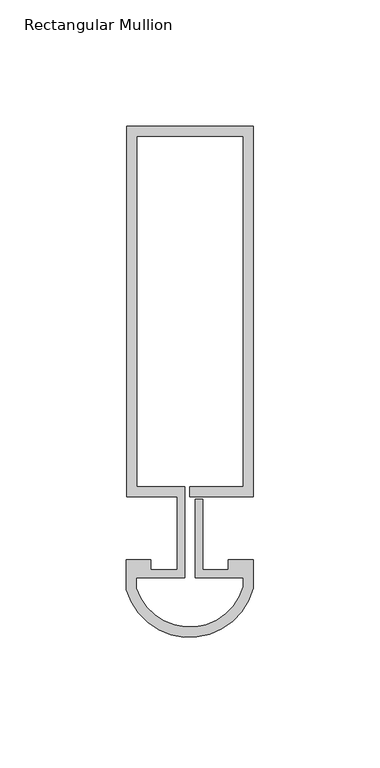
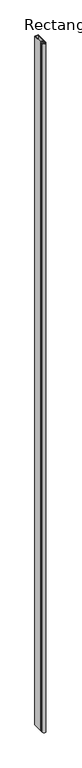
"""IFC4 building model written with IfcOpenShell, lengths in millimetres: member geometry, Rectangular Mullion : Reynaers_CW-50_Mullion-Transom_Vertical_146.5mm_Facecap-07."""

import ifcopenshell
import ifcopenshell.guid

model = None  # the IFC model being written
_history = None  # IfcOwnerHistory: only IFC2X3 demands one
_inside = {}  # id of a spatial element -> (the spatial element, [elements in it])
_under = {}  # id of a project, library or spatial element -> (it, [spatial elements below it])
_declared = {}  # id of a project -> (the project, [libraries it declares])
_typed = {}  # id of a type object -> (the type object, [elements of that type])
_made_of = {}  # id of a material, layer set ... -> (it, [elements and type objects made of it])


def new_model(schema):
    """Start an empty IFC model of exactly this schema.

    Asked for "IFC4X3", IfcOpenShell would pick the latest addendum, in which some entities
    have other attributes; the version numbers below select the first issue.
    IFC2X3 requires an IfcOwnerHistory on every rooted entity: one is made here for all.
    """
    global model, _history
    if schema == "IFC4X3":
        model = ifcopenshell.file(schema_version=(4, 3, 0, 0))
    else:
        model = ifcopenshell.file(schema=schema)
    _inside.clear()
    _under.clear()
    _declared.clear()
    _typed.clear()
    _made_of.clear()
    _history = None
    if model.schema == "IFC2X3":
        org = make("IfcOrganization", Name="unknown")
        user = make(
            "IfcPersonAndOrganization",
            ThePerson=make("IfcPerson", FamilyName="unknown"),
            TheOrganization=org,
        )
        app = make(
            "IfcApplication",
            ApplicationDeveloper=org,
            Version="unknown",
            ApplicationFullName="unknown",
            ApplicationIdentifier="unknown",
        )
        _history = make(
            "IfcOwnerHistory",
            OwningUser=user,
            OwningApplication=app,
            ChangeAction="ADDED",
            CreationDate=0,
        )
    return model


def make(cls, **values):
    """One entity of the class cls with the attributes given. An attribute that is None is left unset."""
    return model.create_entity(
        cls, **{name: value for name, value in values.items() if value is not None}
    )


def rooted(cls, **values):
    """An entity with a GlobalId (a new one), such as an element, a storey or a relation."""
    return make(cls, GlobalId=ifcopenshell.guid.new(), OwnerHistory=_history, **values)


def si_unit(unit_type, name, prefix=None):
    """IfcSIUnit, for example si_unit("LENGTHUNIT", "METRE", prefix="MILLI")."""
    return make("IfcSIUnit", UnitType=unit_type, Prefix=prefix, Name=name)


def assignment(units):
    """IfcUnitAssignment: the units of a project."""
    return None if units is None else make("IfcUnitAssignment", Units=units)


def point(xyz):
    """IfcCartesianPoint."""
    return None if xyz is None else make("IfcCartesianPoint", Coordinates=xyz)


def direction(xyz):
    """IfcDirection."""
    return None if xyz is None else make("IfcDirection", DirectionRatios=xyz)


def frame(location, z_axis=None, x_axis=None):
    """IfcAxis2Placement3D, a coordinate frame: its origin and axes. An axis left out is left unset."""
    return make(
        "IfcAxis2Placement3D",
        Location=point(location),
        Axis=direction(z_axis),
        RefDirection=direction(x_axis),
    )


def frame_2d(location, x_axis=None):
    """IfcAxis2Placement2D, a coordinate frame in the plane: its origin and x axis."""
    return make(
        "IfcAxis2Placement2D", Location=point(location), RefDirection=direction(x_axis)
    )


def origin():
    """The frame at (0, 0, 0) with its axes left unset."""
    return frame((0.0, 0.0, 0.0))


def place(relative_to, where):
    """IfcLocalPlacement: puts the frame where relative to a parent placement (None: the world)."""
    return make(
        "IfcLocalPlacement", PlacementRelTo=relative_to, RelativePlacement=where
    )


def context(
    kind, dimensions, precision=None, world=None, true_north=None, identifier=None
):
    """IfcGeometricRepresentationContext, for example the 3D "Model" context."""
    return make(
        "IfcGeometricRepresentationContext",
        ContextIdentifier=identifier,
        ContextType=kind,
        CoordinateSpaceDimension=dimensions,
        Precision=precision,
        WorldCoordinateSystem=world,
        TrueNorth=true_north,
    )


def project(units=None, contexts=None):
    """IfcProject with its units and contexts."""
    return rooted(
        "IfcProject",
        Name="project",
        RepresentationContexts=contexts,
        UnitsInContext=assignment(units),
    )


def spatial(cls, under=None, at=None, **own):
    """A site, building, storey or space (cls), placed at a placement, below another one or the project."""
    s = rooted(cls, ObjectPlacement=at, **own)
    if under is not None:
        _under.setdefault(under.id(), (under, []))[1].append(s)
    return s


def polyline(points):
    """IfcPolyline through the points."""
    return make("IfcPolyline", Points=[point(p) for p in points])


def circle_curve(where, radius):
    """IfcCircle in the frame where."""
    return make("IfcCircle", Position=where, Radius=radius)


def trimmed(basis, trim1, trim2, sense, master):
    """IfcTrimmedCurve: the piece of a basis curve between two trims."""
    return make(
        "IfcTrimmedCurve",
        BasisCurve=basis,
        Trim1=trim1,
        Trim2=trim2,
        SenseAgreement=sense,
        MasterRepresentation=master,
    )


def segment(curve, same_sense, transition):
    """IfcCompositeCurveSegment."""
    return make(
        "IfcCompositeCurveSegment",
        Transition=transition,
        SameSense=same_sense,
        ParentCurve=curve,
    )


def composite_curve(segments, self_intersect=None):
    """IfcCompositeCurve: segments joined end to end."""
    return make("IfcCompositeCurve", Segments=segments, SelfIntersect=self_intersect)


def outline(outer, holes=None, kind="AREA"):
    """IfcArbitraryClosedProfileDef: a profile drawn as a closed curve; with holes, ...WithVoids."""
    if holes is None:
        return make("IfcArbitraryClosedProfileDef", ProfileType=kind, OuterCurve=outer)
    return make(
        "IfcArbitraryProfileDefWithVoids",
        ProfileType=kind,
        OuterCurve=outer,
        InnerCurves=holes,
    )


def extrude(swept, where, along, depth):
    """IfcExtrudedAreaSolid: the profile swept, set in the frame where, extruded along a direction by depth."""
    return make(
        "IfcExtrudedAreaSolid",
        SweptArea=swept,
        Position=where,
        ExtrudedDirection=direction(along),
        Depth=depth,
    )


def shape(context_of_items, identifier, shape_type, items):
    """IfcShapeRepresentation: the items that make up one representation, for example the "Body"."""
    return make(
        "IfcShapeRepresentation",
        ContextOfItems=context_of_items,
        RepresentationIdentifier=identifier,
        RepresentationType=shape_type,
        Items=items,
    )


def source(mapping_origin, context_of_items, identifier, shape_type, items):
    """IfcRepresentationMap: a shape defined once, which mapped items show again and again."""
    return make(
        "IfcRepresentationMap",
        MappingOrigin=mapping_origin,
        MappedRepresentation=shape(context_of_items, identifier, shape_type, items),
    )


def transform(
    local_origin,
    x_axis=None,
    y_axis=None,
    z_axis=None,
    scale=None,
    scale2=None,
    scale3=None,
    uniform=True,
):
    """IfcCartesianTransformationOperator3D, or its non-uniform kind. x_axis, y_axis, z_axis: its Axis1, 2, 3."""
    if uniform:
        return make(
            "IfcCartesianTransformationOperator3D",
            Axis1=direction(x_axis),
            Axis2=direction(y_axis),
            LocalOrigin=point(local_origin),
            Scale=scale,
            Axis3=direction(z_axis),
        )
    return make(
        "IfcCartesianTransformationOperator3DnonUniform",
        Axis1=direction(x_axis),
        Axis2=direction(y_axis),
        LocalOrigin=point(local_origin),
        Scale=scale,
        Axis3=direction(z_axis),
        Scale2=scale2,
        Scale3=scale3,
    )


def mapped(mapping_source, mapping_target):
    """IfcMappedItem: shows the shape of a source again, moved by a transform."""
    return make(
        "IfcMappedItem", MappingSource=mapping_source, MappingTarget=mapping_target
    )


def made_of(thing, what):
    """Note that an element or type object is made of a material, layer set ...; save() writes the relation."""
    if what is not None:
        _made_of.setdefault(what.id(), (what, []))[1].append(thing)
    return thing


def element(
    cls,
    number,
    at=None,
    inside=None,
    cuts=None,
    type_object=None,
    material=None,
    context=None,
    identifier="Body",
    shape_type=None,
    held_by="IfcProductDefinitionShape",
    body=None,
    shapes=None,
    **own,
):
    """One element of the class cls, such as IfcWall. Its Tag is "e" and its number.

    at: its placement. inside: the storey or other place that contains it. cuts: it is an
    opening in that element (IfcRelVoidsElement). A single representation is given by context,
    identifier, shape_type and body (its items); several are given by shapes. held_by: the class
    of the entity that holds the representations. save() writes the other relations.
    """
    e = rooted(cls, Tag="e%d" % number, ObjectPlacement=at, **own)
    if body is not None:
        shapes = [shape(context, identifier, shape_type, body)]
    if shapes is not None:
        e.Representation = make(held_by, Representations=shapes)
    if inside is not None:
        _inside.setdefault(inside.id(), (inside, []))[1].append(e)
    if cuts is not None:
        rooted(
            "IfcRelVoidsElement", RelatingBuildingElement=cuts, RelatedOpeningElement=e
        )
    if type_object is not None:
        _typed.setdefault(type_object.id(), (type_object, []))[1].append(e)
    return made_of(e, material)


def aggregate(whole, parts):
    """IfcRelAggregates: a whole, such as a stair, and the parts it consists of."""
    return rooted("IfcRelAggregates", RelatingObject=whole, RelatedObjects=parts)


def save(model, path):
    """Write the relations noted so far, then the file.

    IfcRelAggregates (storeys below a building ...), IfcRelContainedInSpatialStructure (elements
    in a storey), IfcRelDefinesByType, IfcRelAssociatesMaterial and IfcRelDeclares: one each for
    every whole, place, type object, material and project.
    """
    for whole, parts in _under.values():
        aggregate(whole, parts)
    for where, things in _inside.values():
        rooted(
            "IfcRelContainedInSpatialStructure",
            RelatedElements=things,
            RelatingStructure=where,
        )
    for kind, things in _typed.values():
        rooted("IfcRelDefinesByType", RelatedObjects=things, RelatingType=kind)
    for what, things in _made_of.values():
        rooted("IfcRelAssociatesMaterial", RelatedObjects=things, RelatingMaterial=what)
    for by, libraries in _declared.values():
        rooted("IfcRelDeclares", RelatingContext=by, RelatedDefinitions=libraries)
    model.write(path)


def rectangular_mullion_0dbaee4c(model_context):
    return source(origin(), model_context, "Body", "SweptSolid", [
        extrude(outline(composite_curve([segment(polyline([(-24.8004059, 159.0), (25.1995941, 159.0), (25.1995941, 12.5), (0.0, 12.5), (0.0, 16.5), (21.1995941, 16.5), (21.1995941, 155.0), (-20.8004059, 155.0), (-20.8004059, 16.5), (-1.9004059, 16.5), (-1.9004059, -19.5), (-20.994845, -19.5), (-20.994845, -23.684232)]), True, "CONTINUOUS"), segment(trimmed(circle_curve(frame_2d((0.0217873, -17.1383151)), 22.0124479), [point((-20.994845, -23.684232))], [point((21.1995941, -23.1423436))], True, "CARTESIAN"), True, "CONTINUOUS"), segment(polyline([(21.1995941, -23.1423436), (21.1995941, -19.5), (2.2995941, -19.5), (2.2995941, 11.5), (5.2995941, 11.5), (5.2995941, -16.5), (15.2996495, -16.5), (15.2996495, -12.5), (25.1995941, -12.5), (25.1995941, -23.6747887)]), True, "CONTINUOUS"), segment(trimmed(circle_curve(frame_2d((0.0217873, -17.1383151)), 26.0124479), [point((25.1995941, -23.6747887))], [point((-24.994845, -24.2668179))], False, "CARTESIAN"), True, "CONTINUOUS"), segment(polyline([(-24.994845, -24.2668179), (-24.994845, -12.5), (-15.2996495, -12.5), (-15.2996495, -16.5), (-4.9004059, -16.5), (-4.9004059, 12.5), (-24.8004059, 12.5), (-24.8004059, 159.0)]), True, "CONTINUOUS")], self_intersect=False)), frame((0.0, 0.0, -10400.0), z_axis=(0.0, 0.0, 1.0), x_axis=(1.0, 0.0, 0.0)), (0.0, 0.0, 1.0), 10400.0),
    ])


if __name__ == "__main__":
    model = new_model("IFC4")
    model_context = context("Model", 3, world=origin())
    ifc_project = project(units=[si_unit("LENGTHUNIT", "METRE", prefix="MILLI")], contexts=[model_context])
    site = spatial("IfcSite", under=ifc_project)
    building = spatial("IfcBuilding", under=site)
    placement = place(None, origin())
    rectangular_mullion_shape = rectangular_mullion_0dbaee4c(model_context)
    element("IfcMember", 1, ObjectType="Rectangular Mullion : Reynaers_CW-50_Mullion-Transom_Vertical_146.5mm_Facecap-07", at=placement, inside=building, context=model_context, shape_type="MappedRepresentation", body=[
        mapped(rectangular_mullion_shape, transform((0.0, 0.0, 0.0), x_axis=(1.0, 0.0, 0.0), y_axis=(0.0, 1.0, 0.0), z_axis=(0.0, 0.0, 1.0))),
    ])
    save(model, "model.ifc")
